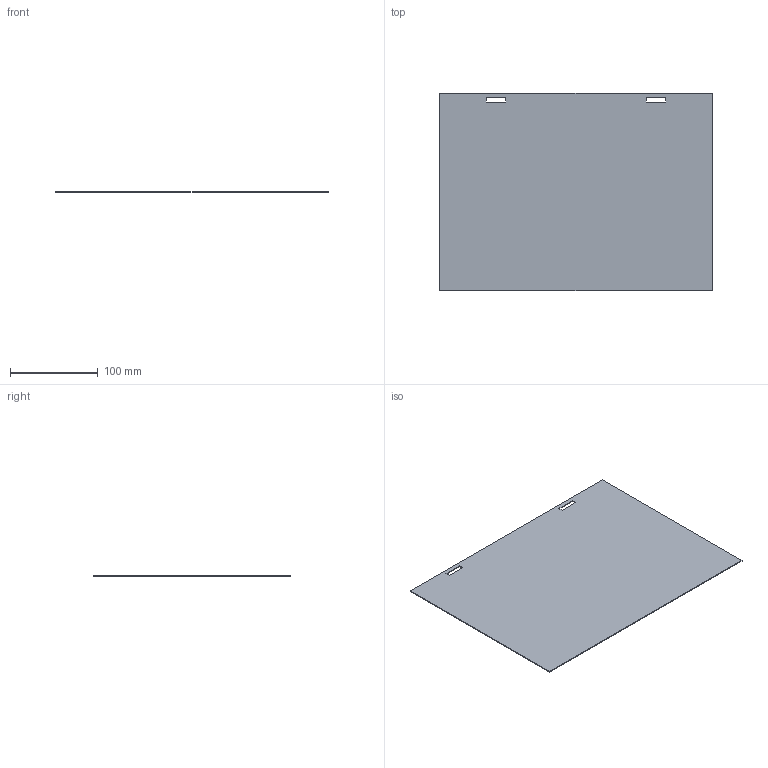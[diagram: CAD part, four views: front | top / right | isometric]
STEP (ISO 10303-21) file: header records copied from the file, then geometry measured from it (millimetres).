
FILE_DESCRIPTION (( 'STEP AP203' ), '1' );
FILE_NAME ('015.300.010.STEP', '2016-10-24T08:54:26', ( '' ), ( '' ), 'SwSTEP 2.0', 'SolidWorks 2016', '' );
FILE_SCHEMA (( 'CONFIG_CONTROL_DESIGN' ));
Length unit declared in the file: millimetre
Products named in the file (1): 015.300.010
Bounding box: 310 x 225 x 1 mm (x, y, z)
Volume: 69530 mm3; surface area: 140238 mm2
Topology: 1 solids, 1 shells, 14 faces, 36 edges, 24 vertices
Faces by surface type: plane 14
Entity records: 505 total; most frequent: CARTESIAN_POINT 75, ORIENTED_EDGE 72, DIRECTION 66, EDGE_CURVE 36, VECTOR 36, LINE 36, VERTEX_POINT 24, EDGE_LOOP 18
